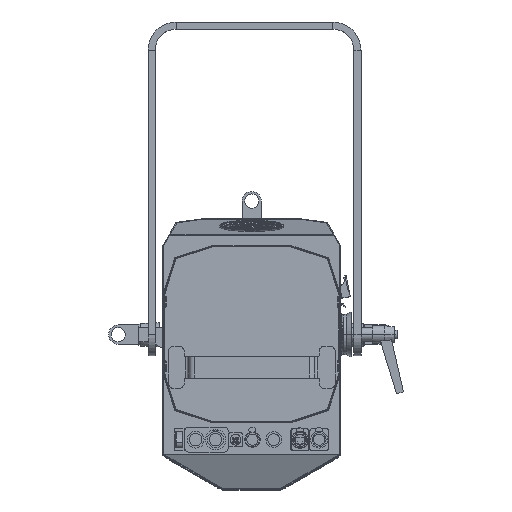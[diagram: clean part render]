
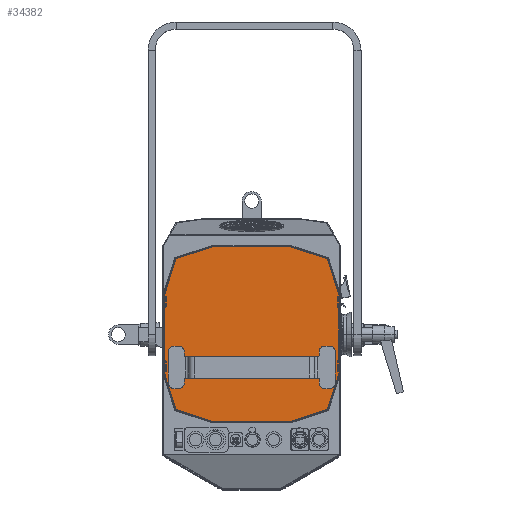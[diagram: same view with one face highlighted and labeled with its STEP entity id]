
A CAD part, top view. The second image highlights one B-rep face of the part: STEP entity #34382.
In plain terms, the highlighted planar face has unit normal (0, 0, 1).
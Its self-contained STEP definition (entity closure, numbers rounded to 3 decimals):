
#2697 = LINE ( 'NONE', #84431, #79233 ) ;
#4356 = EDGE_CURVE ( 'NONE', #98417, #72107, #2697, .T. ) ;
#4397 = LINE ( 'NONE', #29870, #83561 ) ;
#5368 = LINE ( 'NONE', #13512, #49502 ) ;
#8584 = LINE ( 'NONE', #101336, #56447 ) ;
#8758 = VERTEX_POINT ( 'NONE', #71970 ) ;
#11461 = VECTOR ( 'NONE', #71188, 1000. ) ;
#11492 = LINE ( 'NONE', #105613, #100934 ) ;
#13512 = CARTESIAN_POINT ( 'NONE',  ( -123., 0., 215.3 ) ) ;
#13751 = CARTESIAN_POINT ( 'NONE',  ( -123., -54.683, 215.3 ) ) ;
#14477 = EDGE_CURVE ( 'NONE', #72107, #64217, #11492, .T. ) ;
#14719 = CARTESIAN_POINT ( 'NONE',  ( 106.677, -106.106, 215.3 ) ) ;
#16353 = DIRECTION ( 'NONE',  ( 0., 1., 0. ) ) ;
#17284 = ORIENTED_EDGE ( 'NONE', *, *, #43166, .T. ) ;
#17745 = EDGE_CURVE ( 'NONE', #22886, #64217, #22513, .T. ) ;
#18450 = VECTOR ( 'NONE', #84608, 1000. ) ;
#19110 = ORIENTED_EDGE ( 'NONE', *, *, #92766, .F. ) ;
#20570 = ORIENTED_EDGE ( 'NONE', *, *, #14477, .T. ) ;
#22513 = LINE ( 'NONE', #102882, #75613 ) ;
#22886 = VERTEX_POINT ( 'NONE', #24093 ) ;
#23706 = VECTOR ( 'NONE', #88821, 1000. ) ;
#23834 = FACE_OUTER_BOUND ( 'NONE', #73685, .T. ) ;
#24087 = ORIENTED_EDGE ( 'NONE', *, *, #105998, .F. ) ;
#24093 = CARTESIAN_POINT ( 'NONE',  ( 54.683, -123., 215.3 ) ) ;
#25284 = CARTESIAN_POINT ( 'NONE',  ( 123., -54.683, 215.3 ) ) ;
#26949 = EDGE_CURVE ( 'NONE', #98417, #36052, #5368, .T. ) ;
#27818 = VERTEX_POINT ( 'NONE', #25284 ) ;
#29750 = VECTOR ( 'NONE', #83516, 1000. ) ;
#29870 = CARTESIAN_POINT ( 'NONE',  ( -123.033, 54.581, 215.3 ) ) ;
#30622 = ORIENTED_EDGE ( 'NONE', *, *, #26949, .F. ) ;
#30793 = CARTESIAN_POINT ( 'NONE',  ( -54.683, -123., 215.3 ) ) ;
#31102 = VERTEX_POINT ( 'NONE', #34575 ) ;
#34382 = ADVANCED_FACE ( 'NONE', ( #23834 ), #36176, .F. ) ;
#34575 = CARTESIAN_POINT ( 'NONE',  ( 123., 54.683, 215.3 ) ) ;
#34688 = VERTEX_POINT ( 'NONE', #66462 ) ;
#36052 = VERTEX_POINT ( 'NONE', #40351 ) ;
#36176 = PLANE ( 'NONE',  #87512 ) ;
#36652 = LINE ( 'NONE', #36785, #65050 ) ;
#36785 = CARTESIAN_POINT ( 'NONE',  ( -106.677, 106.106, 215.3 ) ) ;
#37489 = DIRECTION ( 'NONE',  ( -0.309, -0.951, 0. ) ) ;
#39214 = CARTESIAN_POINT ( 'NONE',  ( 123.033, 54.581, 215.3 ) ) ;
#40351 = CARTESIAN_POINT ( 'NONE',  ( -123., 54.683, 215.3 ) ) ;
#41256 = EDGE_CURVE ( 'NONE', #27818, #77228, #8584, .T. ) ;
#41296 = LINE ( 'NONE', #14719, #11461 ) ;
#43166 = EDGE_CURVE ( 'NONE', #8758, #54644, #65154, .T. ) ;
#44699 = DIRECTION ( 'NONE',  ( -0.309, 0.951, 0. ) ) ;
#44893 = ORIENTED_EDGE ( 'NONE', *, *, #4356, .T. ) ;
#45469 = DIRECTION ( 'NONE',  ( 0.951, 0.309, 0. ) ) ;
#46289 = DIRECTION ( 'NONE',  ( -1., 0., 0. ) ) ;
#49502 = VECTOR ( 'NONE', #16353, 1000. ) ;
#50223 = EDGE_CURVE ( 'NONE', #27818, #31102, #95926, .T. ) ;
#50728 = DIRECTION ( 'NONE',  ( 0.309, -0.951, 0. ) ) ;
#54551 = ORIENTED_EDGE ( 'NONE', *, *, #82590, .F. ) ;
#54644 = VERTEX_POINT ( 'NONE', #71665 ) ;
#54690 = LINE ( 'NONE', #100922, #18450 ) ;
#56447 = VECTOR ( 'NONE', #37489, 1000. ) ;
#58236 = EDGE_CURVE ( 'NONE', #54644, #34688, #54690, .T. ) ;
#58484 = CARTESIAN_POINT ( 'NONE',  ( 123., 0., 215.3 ) ) ;
#62880 = ORIENTED_EDGE ( 'NONE', *, *, #50223, .T. ) ;
#63525 = DIRECTION ( 'NONE',  ( 0.309, 0.951, 0. ) ) ;
#64217 = VERTEX_POINT ( 'NONE', #30793 ) ;
#65050 = VECTOR ( 'NONE', #45469, 1000. ) ;
#65154 = LINE ( 'NONE', #80472, #23706 ) ;
#66025 = ORIENTED_EDGE ( 'NONE', *, *, #58236, .T. ) ;
#66462 = CARTESIAN_POINT ( 'NONE',  ( -54.683, 123., 215.3 ) ) ;
#67054 = CARTESIAN_POINT ( 'NONE',  ( 106.246, -106.246, 215.3 ) ) ;
#70499 = DIRECTION ( 'NONE',  ( -1., 0., 0. ) ) ;
#71188 = DIRECTION ( 'NONE',  ( -0.951, -0.309, 0. ) ) ;
#71665 = CARTESIAN_POINT ( 'NONE',  ( 54.683, 123., 215.3 ) ) ;
#71903 = DIRECTION ( 'NONE',  ( 0., 0., -1. ) ) ;
#71970 = CARTESIAN_POINT ( 'NONE',  ( 106.246, 106.246, 215.3 ) ) ;
#72107 = VERTEX_POINT ( 'NONE', #93242 ) ;
#72515 = DIRECTION ( 'NONE',  ( 0.951, -0.309, 0. ) ) ;
#73685 = EDGE_LOOP ( 'NONE', ( #62880, #86907, #17284, #66025, #24087, #54551, #30622, #44893, #20570, #94602, #19110, #77115 ) ) ;
#75613 = VECTOR ( 'NONE', #70499, 1000. ) ;
#77115 = ORIENTED_EDGE ( 'NONE', *, *, #41256, .F. ) ;
#77228 = VERTEX_POINT ( 'NONE', #67054 ) ;
#79103 = EDGE_CURVE ( 'NONE', #31102, #8758, #94529, .T. ) ;
#79233 = VECTOR ( 'NONE', #50728, 1000. ) ;
#80472 = CARTESIAN_POINT ( 'NONE',  ( 106.677, 106.106, 215.3 ) ) ;
#82590 = EDGE_CURVE ( 'NONE', #36052, #93525, #4397, .T. ) ;
#83516 = DIRECTION ( 'NONE',  ( 0., 1., 0. ) ) ;
#83561 = VECTOR ( 'NONE', #63525, 1000. ) ;
#84167 = CARTESIAN_POINT ( 'NONE',  ( -106.246, 106.246, 215.3 ) ) ;
#84212 = VECTOR ( 'NONE', #44699, 1000. ) ;
#84431 = CARTESIAN_POINT ( 'NONE',  ( -123.033, -54.581, 215.3 ) ) ;
#84608 = DIRECTION ( 'NONE',  ( -1., 0., 0. ) ) ;
#86907 = ORIENTED_EDGE ( 'NONE', *, *, #79103, .T. ) ;
#87512 = AXIS2_PLACEMENT_3D ( 'NONE', #94192, #71903, #46289 ) ;
#88821 = DIRECTION ( 'NONE',  ( -0.951, 0.309, 0. ) ) ;
#92766 = EDGE_CURVE ( 'NONE', #77228, #22886, #41296, .T. ) ;
#93242 = CARTESIAN_POINT ( 'NONE',  ( -106.246, -106.246, 215.3 ) ) ;
#93525 = VERTEX_POINT ( 'NONE', #84167 ) ;
#94192 = CARTESIAN_POINT ( 'NONE',  ( 0., 0., 215.3 ) ) ;
#94529 = LINE ( 'NONE', #39214, #84212 ) ;
#94602 = ORIENTED_EDGE ( 'NONE', *, *, #17745, .F. ) ;
#95926 = LINE ( 'NONE', #58484, #29750 ) ;
#98417 = VERTEX_POINT ( 'NONE', #13751 ) ;
#100922 = CARTESIAN_POINT ( 'NONE',  ( 54.791, 123., 215.3 ) ) ;
#100934 = VECTOR ( 'NONE', #72515, 1000. ) ;
#101336 = CARTESIAN_POINT ( 'NONE',  ( 123.033, -54.581, 215.3 ) ) ;
#102882 = CARTESIAN_POINT ( 'NONE',  ( 54.791, -123., 215.3 ) ) ;
#105613 = CARTESIAN_POINT ( 'NONE',  ( -106.677, -106.106, 215.3 ) ) ;
#105998 = EDGE_CURVE ( 'NONE', #93525, #34688, #36652, .T. ) ;
